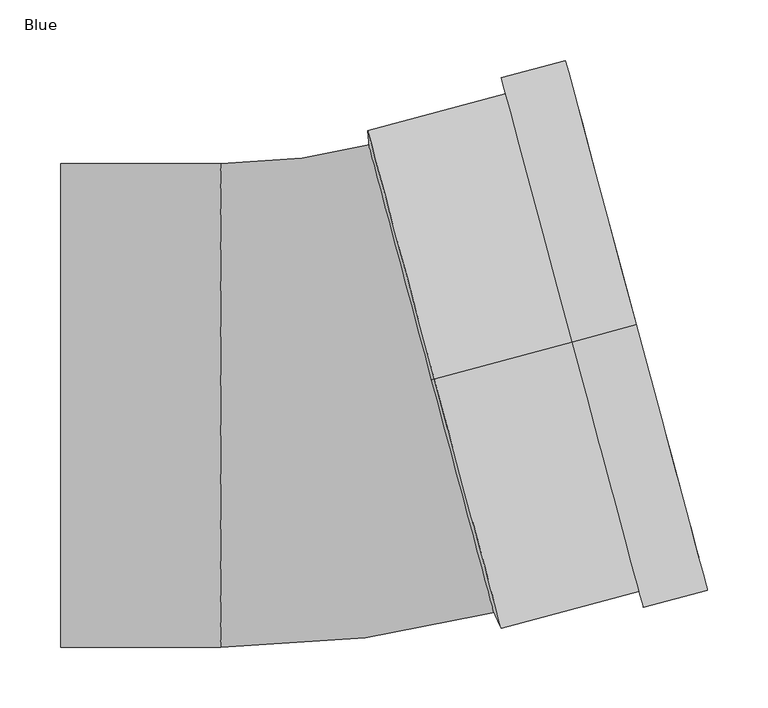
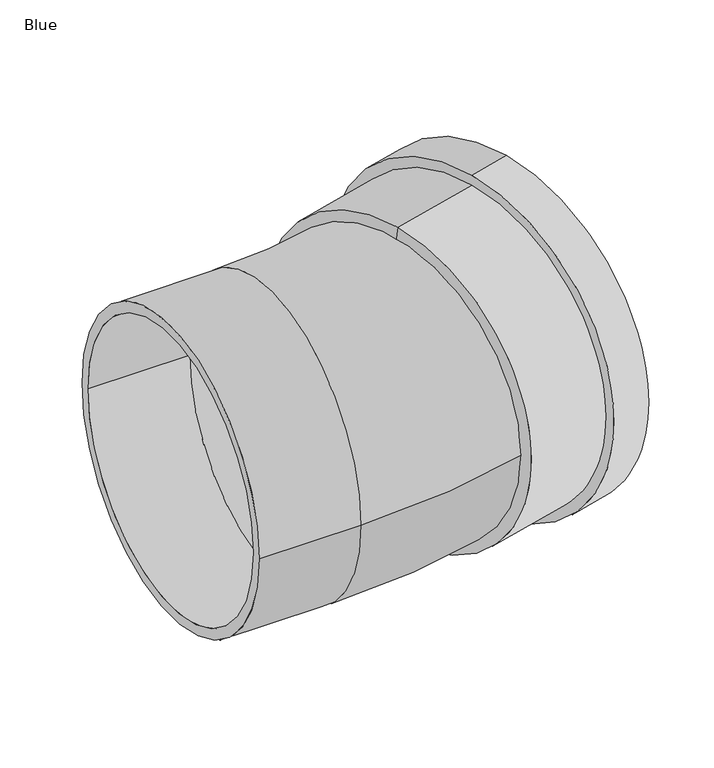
"""IFC4 building model written with IfcOpenShell, lengths in millimetres: pipe fitting geometry, AWADUKT PP SN10 Bend : Blue."""

from ifc_helpers import new_model, si_unit, point, frame, origin, place, context, project, spatial, polyline, circle_curve, ellipse_curve, trimmed, source, transform, mapped, element, save
from ifc_brep_helpers import plane_surface, cylinder_surface, revolved_surface, advanced_brep


def blue_5f6e9122(model_context):
    return source(origin(), model_context, "Body", "AdvancedBrep", [
        advanced_brep(
        [(196.1795353, 52.5661481, 213.7), (196.1795353, 52.5661481, -213.7), (82.2196205, 22.0306809, -213.7), (82.2196205, 22.0306809, 213.7), (249.1122706, 66.7494317, 227.4), (249.1122706, 66.7494317, -227.4), (196.1795353, 52.5661481, -227.4), (196.1795353, 52.5661481, 227.4), (235.8790868, 63.2036108, 200.0), (235.8790868, 63.2036108, -200.0), (249.1122706, 66.7494317, -200.0), (249.1122706, 66.7494317, 200.0), (209.4127191, 56.111969, 213.7), (209.4127191, 56.111969, -213.7), (235.8790868, 63.2036108, -213.7), (235.8790868, 63.2036108, 213.7), (93.3235802, 25.0059779, 200.0), (93.3235802, 25.0059779, -200.0), (209.4127191, 56.111969, -200.0), (209.4127191, 56.111969, 200.0), (90.9902128, 24.380754, 186.3), (90.9902128, 24.380754, -186.3), (77.5528858, 20.7802331, 186.3), (77.5528858, 20.7802331, -186.3)],
        [
            (0, 1, circle_curve(frame((196.1795353, 52.5661481, 0.0), z_axis=(-0.9659258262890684, -0.2588190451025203, 0.0), x_axis=(0.0, 0.0, -1.0)), 213.7)),
            (1, 2),
            (2, 3, circle_curve(frame((82.2196205, 22.0306809, 0.0), z_axis=(0.9659258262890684, 0.2588190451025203, 0.0), x_axis=(0.0, 0.0, -1.0)), 213.7)),
            (3, 0),
            (4, 5, circle_curve(frame((249.1122706, 66.7494317, 0.0), z_axis=(-0.9659258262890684, -0.2588190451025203, 0.0), x_axis=(0.0, 0.0, -1.0)), 227.4)),
            (5, 6),
            (6, 7, circle_curve(frame((196.1795353, 52.5661481, 0.0), z_axis=(0.9659258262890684, 0.2588190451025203, 0.0), x_axis=(0.0, 0.0, -1.0)), 227.4)),
            (7, 4),
            (8, 9, circle_curve(frame((235.8790868, 63.2036108, 0.0), z_axis=(-0.9659258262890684, -0.2588190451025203, 0.0), x_axis=(0.0, 0.0, -1.0)), 200.0)),
            (9, 10),
            (10, 11, circle_curve(frame((249.1122706, 66.7494317, 0.0), z_axis=(0.9659258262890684, 0.2588190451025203, 0.0), x_axis=(0.0, 0.0, -1.0)), 200.0)),
            (11, 8),
            (12, 13, circle_curve(frame((209.4127191, 56.111969, 0.0), z_axis=(-0.9659258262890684, -0.2588190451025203, 0.0), x_axis=(0.0, 0.0, -1.0)), 213.7)),
            (13, 14),
            (14, 15, circle_curve(frame((235.8790868, 63.2036108, 0.0), z_axis=(0.9659258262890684, 0.2588190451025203, 0.0), x_axis=(0.0, 0.0, -1.0)), 213.7)),
            (15, 12),
            (16, 17, circle_curve(frame((93.3235802, 25.0059779, 0.0), z_axis=(-0.9659258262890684, -0.2588190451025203, 0.0), x_axis=(0.0, 0.0, -1.0)), 200.0)),
            (17, 18),
            (18, 19, circle_curve(frame((209.4127191, 56.111969, 0.0), z_axis=(0.9659258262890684, 0.2588190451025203, 0.0), x_axis=(0.0, 0.0, -1.0)), 200.0)),
            (19, 16),
            (20, 21, circle_curve(frame((90.9902128, 24.380754, 0.0), z_axis=(-0.9659258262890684, -0.2588190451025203, 0.0), x_axis=(0.0, 0.0, -1.0)), 186.3)),
            (21, 17),
            (16, 20),
            (22, 23, circle_curve(frame((77.5528858, 20.7802331, 0.0), z_axis=(-0.9659258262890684, -0.2588190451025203, 0.0), x_axis=(0.0, 0.0, -1.0)), 186.3)),
            (23, 21),
            (20, 22),
            (2, 23),
            (22, 3),
            (1, 0, circle_curve(frame((196.1795353, 52.5661481, 0.0), z_axis=(-0.9659258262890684, -0.2588190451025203, 0.0), x_axis=(0.0, 0.0, 1.0)), 213.7)),
            (3, 2, circle_curve(frame((82.2196205, 22.0306809, 0.0), z_axis=(0.9659258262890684, 0.2588190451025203, 0.0), x_axis=(0.0, 0.0, 1.0)), 213.7)),
            (6, 7, circle_curve(frame((196.1795353, 52.5661481, 0.0), z_axis=(-0.9659258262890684, -0.2588190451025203, 0.0), x_axis=(0.0, 0.0, 1.0)), 227.4)),
            (5, 4, circle_curve(frame((249.1122706, 66.7494317, 0.0), z_axis=(-0.9659258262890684, -0.2588190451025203, 0.0), x_axis=(0.0, 0.0, 1.0)), 227.4)),
            (10, 11, circle_curve(frame((249.1122706, 66.7494317, 0.0), z_axis=(-0.9659258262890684, -0.2588190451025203, 0.0), x_axis=(0.0, 0.0, 1.0)), 200.0)),
            (9, 8, circle_curve(frame((235.8790868, 63.2036108, 0.0), z_axis=(-0.9659258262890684, -0.2588190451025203, 0.0), x_axis=(0.0, 0.0, 1.0)), 200.0)),
            (14, 15, circle_curve(frame((235.8790868, 63.2036108, 0.0), z_axis=(-0.9659258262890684, -0.2588190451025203, 0.0), x_axis=(0.0, 0.0, 1.0)), 213.7)),
            (13, 12, circle_curve(frame((209.4127191, 56.111969, 0.0), z_axis=(-0.9659258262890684, -0.2588190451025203, 0.0), x_axis=(0.0, 0.0, 1.0)), 213.7)),
            (18, 19, circle_curve(frame((209.4127191, 56.111969, 0.0), z_axis=(-0.9659258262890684, -0.2588190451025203, 0.0), x_axis=(0.0, 0.0, 1.0)), 200.0)),
            (17, 16, circle_curve(frame((93.3235802, 25.0059779, 0.0), z_axis=(-0.9659258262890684, -0.2588190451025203, 0.0), x_axis=(0.0, 0.0, 1.0)), 200.0)),
            (21, 20, circle_curve(frame((90.9902128, 24.380754, 0.0), z_axis=(-0.9659258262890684, -0.2588190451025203, 0.0), x_axis=(0.0, 0.0, 1.0)), 186.3)),
            (23, 22, circle_curve(frame((77.5528858, 20.7802331, 0.0), z_axis=(-0.9659258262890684, -0.2588190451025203, 0.0), x_axis=(0.0, 0.0, 1.0)), 186.3)),
        ],
        [
            cylinder_surface(frame((90.9902128, 24.380754, 0.0), z_axis=(0.9659258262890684, 0.2588190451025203, 0.0), x_axis=(0.0, 0.0, -1.0)), 213.7),
            cylinder_surface(frame((90.9902128, 24.380754, 0.0), z_axis=(0.9659258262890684, 0.2588190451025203, 0.0), x_axis=(0.0, 0.0, -1.0)), 227.4),
            revolved_surface(polyline([(249.1122706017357, 66.74943169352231, -200.0), (235.87908680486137, 63.20361078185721, -200.0)]), (90.9902128, 24.380754, 0.0), (0.9659258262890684, 0.2588190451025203, 0.0)),
            revolved_surface(polyline([(235.87908680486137, 63.20361078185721, -213.7), (209.41271911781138, 56.111968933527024, -213.7)]), (90.9902128, 24.380754, 0.0), (0.9659258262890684, 0.2588190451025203, 0.0)),
            revolved_surface(polyline([(209.41271911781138, 56.111968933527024, -200.0), (93.32358019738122, 25.005977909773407, -200.0)]), (90.9902128, 24.380754, 0.0), (0.9659258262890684, 0.2588190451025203, 0.0)),
            revolved_surface(polyline([(93.3235802, 25.0059779, -200.0), (90.9902128, 24.380754, -186.3)]), (90.9902128, 24.380754, 0.0), (0.9659258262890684, 0.2588190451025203, 0.0)),
            revolved_surface(polyline([(90.9902128, 24.380754, -186.3), (77.55288580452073, 20.78023308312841, -186.3)]), (90.9902128, 24.380754, 0.0), (0.9659258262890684, 0.2588190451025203, 0.0)),
            revolved_surface(polyline([(77.5528858, 20.7802331, -186.3), (82.2196205, 22.0306809, -213.7)]), (90.9902128, 24.380754, 0.0), (0.9659258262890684, 0.2588190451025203, 0.0)),
            cylinder_surface(frame((90.9902128, 24.380754, 0.0), z_axis=(0.9659258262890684, 0.2588190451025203, 0.0), x_axis=(0.0, 0.0, 1.0)), 213.7),
            plane_surface(frame((196.1795353, 52.5661481, 0.0), z_axis=(-0.9659258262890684, -0.2588190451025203, 0.0), x_axis=(0.0, 0.0, 1.0))),
            cylinder_surface(frame((90.9902128, 24.380754, 0.0), z_axis=(0.9659258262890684, 0.2588190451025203, 0.0), x_axis=(0.0, 0.0, 1.0)), 227.4),
            plane_surface(frame((249.1122706, 66.7494317, 0.0), z_axis=(0.9659258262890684, 0.2588190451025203, 0.0), x_axis=(0.0, 0.0, 1.0))),
            revolved_surface(polyline([(249.1122706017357, 66.74943169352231, 200.0), (235.87908680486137, 63.20361078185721, 200.0)]), (90.9902128, 24.380754, 0.0), (0.9659258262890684, 0.2588190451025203, 0.0)),
            plane_surface(frame((235.8790868, 63.2036108, 0.0), z_axis=(-0.9659258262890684, -0.2588190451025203, 0.0), x_axis=(0.0, 0.0, 1.0))),
            revolved_surface(polyline([(235.87908680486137, 63.20361078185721, 213.7), (209.41271911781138, 56.111968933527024, 213.7)]), (90.9902128, 24.380754, 0.0), (0.9659258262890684, 0.2588190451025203, 0.0)),
            plane_surface(frame((209.4127191, 56.111969, 0.0), z_axis=(0.9659258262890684, 0.2588190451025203, 0.0), x_axis=(0.0, 0.0, 1.0))),
            revolved_surface(polyline([(209.41271911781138, 56.111968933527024, 200.0), (93.32358019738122, 25.005977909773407, 200.0)]), (90.9902128, 24.380754, 0.0), (0.9659258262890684, 0.2588190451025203, 0.0)),
            revolved_surface(polyline([(93.3235802, 25.0059779, 200.0), (90.9902128, 24.380754, 186.3)]), (90.9902128, 24.380754, 0.0), (0.9659258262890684, 0.2588190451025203, 0.0)),
            revolved_surface(polyline([(90.9902128, 24.380754, 186.3), (77.55288580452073, 20.78023308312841, 186.3)]), (90.9902128, 24.380754, 0.0), (0.9659258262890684, 0.2588190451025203, 0.0)),
            revolved_surface(polyline([(77.5528858, 20.7802331, 186.3), (82.2196205, 22.0306809, 213.7)]), (90.9902128, 24.380754, 0.0), (0.9659258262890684, 0.2588190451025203, 0.0)),
        ],
        [
            (0, [[1, 2, 3, 4]]),
            (1, [[5, 6, 7, 8]]),
            (2, [[9, 10, 11, 12]]),
            (3, [[13, 14, 15, 16]]),
            (4, [[17, 18, 19, 20]]),
            (5, [[21, 22, -17, 23]]),
            (6, [[24, 25, -21, 26]]),
            (7, [[-3, 27, -24, 28]]),
            (8, [[29, -4, 30, -2]]),
            (9, [[31, -7], [-29, -1]]),
            (10, [[32, -8, -31, -6]]),
            (11, [[-32, -5], [33, -11]]),
            (12, [[34, -12, -33, -10]]),
            (13, [[35, -15], [-34, -9]]),
            (14, [[36, -16, -35, -14]]),
            (15, [[-36, -13], [37, -19]]),
            (16, [[38, -20, -37, -18]]),
            (17, [[39, -23, -38, -22]]),
            (18, [[40, -26, -39, -25]]),
            (19, [[-30, -28, -40, -27]]),
        ],
    ),
        advanced_brep(
        [(-226.6, -200.0, 0.0), (-226.6, 200.0, 0.0), (-226.6, -186.3, 0.0), (-226.6, 186.3, 0.0), (142.7540219, -168.8044112, 0.0), (39.2264038, 217.5659193, 0.0), (139.2082009, -155.5712274, 0.0), (42.7722247, 204.3327355, 0.0), (-94.2, -186.3, 0.0), (-94.2, 186.3, 0.0), (-94.2, -200.0, 0.0), (-94.2, 200.0, 0.0)],
        [
            (0, 1, circle_curve(frame((-226.6, 0.0, 0.0), z_axis=(-1.0, 0.0, 0.0), x_axis=(0.0, 1.0, 0.0)), 200.0)),
            (1, 0, circle_curve(frame((-226.6, 0.0, 0.0), z_axis=(-1.0, 0.0, 0.0), x_axis=(0.0, 1.0, 0.0)), 200.0)),
            (2, 3, circle_curve(frame((-226.6, 0.0, 0.0), z_axis=(1.0, 0.0, 0.0), x_axis=(0.0, 1.0, 0.0)), 186.3)),
            (3, 2, circle_curve(frame((-226.6, 0.0, 0.0), z_axis=(1.0, 0.0, 0.0), x_axis=(0.0, 1.0, 0.0)), 186.3)),
            (4, 5, circle_curve(frame((90.9902128, 24.380754, 0.0), z_axis=(0.9659258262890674, 0.25881904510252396, 0.0), x_axis=(-0.25881904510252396, 0.9659258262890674, 0.0)), 200.0)),
            (5, 4, circle_curve(frame((90.9902128, 24.380754, 0.0), z_axis=(0.9659258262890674, 0.25881904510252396, 0.0), x_axis=(-0.25881904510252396, 0.9659258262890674, 0.0)), 200.0)),
            (6, 7, circle_curve(frame((90.9902128, 24.380754, 0.0), z_axis=(-0.9659258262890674, -0.25881904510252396, 0.0), x_axis=(-0.25881904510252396, 0.9659258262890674, 0.0)), 186.3)),
            (7, 6, circle_curve(frame((90.9902128, 24.380754, 0.0), z_axis=(-0.9659258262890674, -0.25881904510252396, 0.0), x_axis=(-0.25881904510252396, 0.9659258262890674, 0.0)), 186.3)),
            (2, 8),
            (8, 9, circle_curve(frame((-94.2, 0.0, 0.0), z_axis=(1.0, 0.0, 0.0), x_axis=(0.0, 1.0, 0.0)), 186.3)),
            (9, 3),
            (9, 8, circle_curve(frame((-94.2, 0.0, 0.0), z_axis=(1.0, 0.0, 0.0), x_axis=(0.0, 1.0, 0.0)), 186.3)),
            (0, 10),
            (10, 11, circle_curve(frame((-94.2, 0.0, 0.0), z_axis=(-1.0, 0.0, 0.0), x_axis=(0.0, 1.0, 0.0)), 200.0)),
            (11, 1),
            (11, 10, circle_curve(frame((-94.2, 0.0, 0.0), z_axis=(-1.0, 0.0, 0.0), x_axis=(0.0, 1.0, 0.0)), 200.0)),
            (7, 9, circle_curve(frame((-94.2, 715.5200374, 0.0), z_axis=(0.0, 0.0, -1.0), x_axis=(0.0, -1.0, 0.0)), 529.2200374)),
            (8, 6, circle_curve(frame((-94.2, 715.5200374, 0.0), z_axis=(0.0, 0.0, 1.0), x_axis=(0.0, -1.0, 0.0)), 901.8200374)),
            (5, 11, circle_curve(frame((-94.2, 715.5200374, 0.0), z_axis=(0.0, 0.0, -1.0), x_axis=(0.0, -1.0, 0.0)), 515.5200374)),
            (10, 4, circle_curve(frame((-94.2, 715.5200374, 0.0), z_axis=(0.0, 0.0, 1.0), x_axis=(0.0, -1.0, 0.0)), 915.5200374)),
        ],
        [
            plane_surface(frame((-226.6, 0.0, 0.0), z_axis=(-1.0, 0.0, 0.0), x_axis=(0.0, 0.0, 1.0))),
            plane_surface(frame((90.9902128, 24.380754, 0.0), z_axis=(0.9659258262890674, 0.25881904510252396, 0.0), x_axis=(0.0, 0.0, 1.0))),
            revolved_surface(polyline([(-94.20000000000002, 186.3, 0.0), (-226.6, 186.3, 0.0)]), (-226.6, 0.0, 0.0), (1.0, 0.0, 0.0)),
            cylinder_surface(frame((-226.6, 0.0, 0.0), z_axis=(-1.0, 0.0, 0.0), x_axis=(0.0, 1.0, 0.0)), 200.0),
            revolved_surface(trimmed(ellipse_curve(frame((-94.2, 0.0, 0.0), z_axis=(1.0, 0.0, 0.0), x_axis=(0.0, 1.0, 0.0)), 186.3, 186.3), [point((-94.2, -186.3, 0.0))], [point((-94.2, 186.3, 0.0))], True, "CARTESIAN"), (-94.2, 715.5200374, 0.0), (0.0, 0.0, 1.0)),
            revolved_surface(trimmed(ellipse_curve(frame((-94.2, 0.0, 0.0), z_axis=(1.0, 0.0, 0.0), x_axis=(0.0, 1.0, 0.0)), 186.3, 186.3), [point((-94.2, 186.3, 0.0))], [point((-94.2, -186.3, 0.0))], True, "CARTESIAN"), (-94.2, 715.5200374, 0.0), (0.0, 0.0, 1.0)),
            revolved_surface(trimmed(ellipse_curve(frame((-94.2, 0.0, 0.0), z_axis=(-1.0, 0.0, 0.0), x_axis=(0.0, 1.0, 0.0)), 200.0, 200.0), [point((-94.2, -200.0, 0.0))], [point((-94.2, 200.0, 0.0))], True, "CARTESIAN"), (-94.2, 715.5200374, 0.0), (0.0, 0.0, 1.0)),
            revolved_surface(trimmed(ellipse_curve(frame((-94.2, 0.0, 0.0), z_axis=(-1.0, 0.0, 0.0), x_axis=(0.0, 1.0, 0.0)), 200.0, 200.0), [point((-94.2, 200.0, 0.0))], [point((-94.2, -200.0, 0.0))], True, "CARTESIAN"), (-94.2, 715.5200374, 0.0), (0.0, 0.0, 1.0)),
        ],
        [
            (0, [[1, 2], [3, 4]]),
            (1, [[5, 6], [7, 8]]),
            (2, [[-3, 9, 10, 11]]),
            (2, [[-4, -11, 12, -9]]),
            (3, [[-1, 13, 14, 15]]),
            (3, [[-2, -15, 16, -13]]),
            (4, [[17, -10, 18, -8]]),
            (5, [[-18, -12, -17, -7]]),
            (6, [[19, -14, 20, -6]]),
            (7, [[-20, -16, -19, -5]]),
        ],
    ),
    ])


if __name__ == "__main__":
    model = new_model("IFC4")
    model_context = context("Model", 3, world=origin())
    ifc_project = project(units=[si_unit("LENGTHUNIT", "METRE", prefix="MILLI")], contexts=[model_context])
    site = spatial("IfcSite", under=ifc_project)
    building = spatial("IfcBuilding", under=site)
    placement = place(None, origin())
    blue_shape = blue_5f6e9122(model_context)
    element("IfcPipeFitting", 1, ObjectType="AWADUKT PP SN10 Bend : Blue", at=placement, inside=building, context=model_context, shape_type="MappedRepresentation", body=[
        mapped(blue_shape, transform((0.0, 0.0, 0.0), x_axis=(1.0, 0.0, 0.0), y_axis=(0.0, 1.0, 0.0), z_axis=(0.0, 0.0, 1.0))),
    ])
    save(model, "model.ifc")
